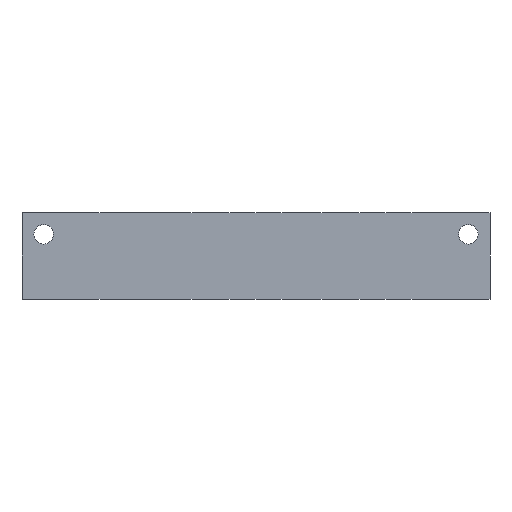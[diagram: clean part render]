
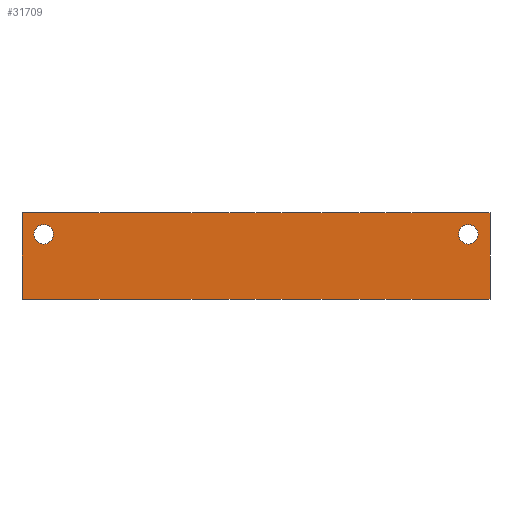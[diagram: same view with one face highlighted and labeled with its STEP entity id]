
A CAD part, front view. The second image highlights one B-rep face of the part: STEP entity #31709.
In plain terms, the highlighted planar face has unit normal (0, -1, 0).
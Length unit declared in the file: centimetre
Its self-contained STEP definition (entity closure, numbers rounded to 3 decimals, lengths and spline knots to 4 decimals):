
#573=CIRCLE('',#65380,0.225);
#742=CIRCLE('',#66079,0.225);
#2373=VERTEX_POINT('',#42711);
#2384=VERTEX_POINT('',#42736);
#2385=VERTEX_POINT('',#42738);
#3648=VERTEX_POINT('',#52514);
#3655=VERTEX_POINT('',#52533);
#3656=VERTEX_POINT('',#52538);
#5542=VECTOR('',#34524,1.);
#6811=VECTOR('',#36772,1.);
#6823=VECTOR('',#36785,1.);
#6824=VECTOR('',#36790,1.);
#8891=LINE('',#42737,#5542);
#10146=LINE('',#52513,#6811);
#10158=LINE('',#52534,#6823);
#10159=LINE('',#52539,#6824);
#12394=EDGE_CURVE('',#2373,#2373,#573,.T.);
#12407=EDGE_CURVE('',#2385,#2384,#8891,.T.);
#14356=EDGE_CURVE('',#2385,#3648,#10146,.T.);
#14368=EDGE_CURVE('',#3655,#2384,#10158,.T.);
#14369=EDGE_CURVE('',#3656,#3656,#742,.T.);
#14370=EDGE_CURVE('',#3648,#3655,#10159,.T.);
#21636=ORIENTED_EDGE('',*,*,#12394,.F.);
#21637=ORIENTED_EDGE('',*,*,#14369,.T.);
#21638=ORIENTED_EDGE('',*,*,#14368,.F.);
#21639=ORIENTED_EDGE('',*,*,#14370,.F.);
#21640=ORIENTED_EDGE('',*,*,#14356,.F.);
#21641=ORIENTED_EDGE('',*,*,#12407,.T.);
#27626=EDGE_LOOP('',(#21636));
#27627=EDGE_LOOP('',(#21637));
#27628=EDGE_LOOP('',(#21638,#21639,#21640,#21641));
#29720=FACE_BOUND('',#27626,.T.);
#29721=FACE_BOUND('',#27627,.T.);
#29722=FACE_BOUND('',#27628,.T.);
#31709=ADVANCED_FACE('',(#29720,#29721,#29722),#33246,.F.);
#33246=PLANE('',#66078);
#34508=DIRECTION('',(0.,-1.,0.));
#34509=DIRECTION('',(-0.225,0.,0.));
#34524=DIRECTION('',(0.,0.,1.));
#36772=DIRECTION('',(-1.,0.,0.));
#36785=DIRECTION('',(1.,0.,0.));
#36787=DIRECTION('',(0.,1.,0.));
#36788=DIRECTION('',(0.,1.,0.));
#36789=DIRECTION('',(0.225,0.,0.));
#36790=DIRECTION('',(0.,0.,1.));
#42710=CARTESIAN_POINT('',(7.5,0.,0.5));
#42711=CARTESIAN_POINT('',(7.725,0.,0.5));
#42736=CARTESIAN_POINT('',(8.,0.,1.));
#42737=CARTESIAN_POINT('',(8.,0.,-1.));
#42738=CARTESIAN_POINT('',(8.,0.,-1.));
#52513=CARTESIAN_POINT('',(-1.,0.,-1.));
#52514=CARTESIAN_POINT('',(-2.8,0.,-1.));
#52533=CARTESIAN_POINT('',(-2.8,0.,1.));
#52534=CARTESIAN_POINT('',(-2.8,0.,1.));
#52536=CARTESIAN_POINT('',(0.5,0.,0.));
#52537=CARTESIAN_POINT('',(-2.3,0.,0.5));
#52538=CARTESIAN_POINT('',(-2.525,0.,0.5));
#52539=CARTESIAN_POINT('',(-2.8,0.,-1.));
#65380=AXIS2_PLACEMENT_3D('',#42710,#34508,#34509);
#66078=AXIS2_PLACEMENT_3D('',#52536,#36787,$);
#66079=AXIS2_PLACEMENT_3D('',#52537,#36788,#36789);
